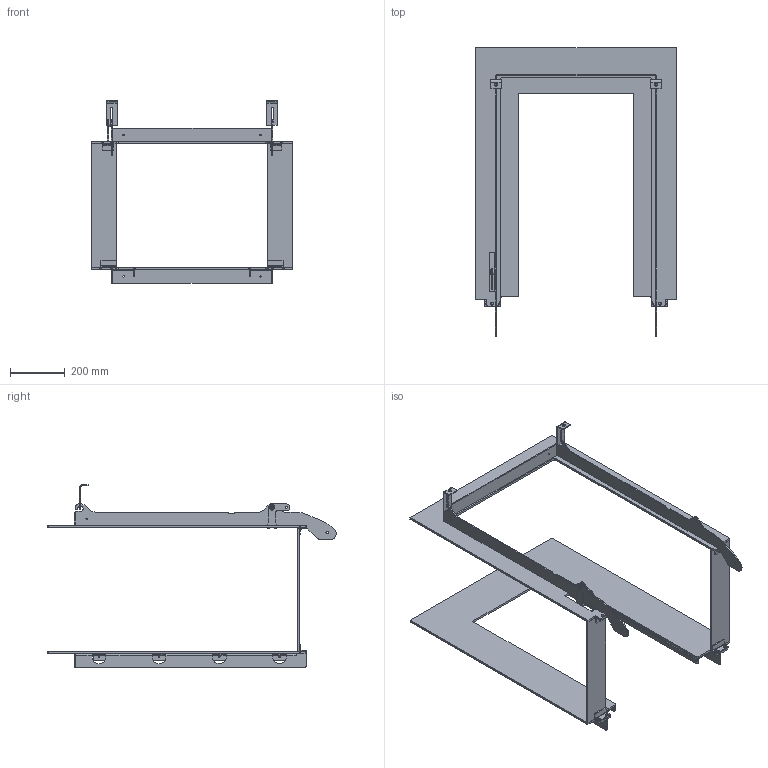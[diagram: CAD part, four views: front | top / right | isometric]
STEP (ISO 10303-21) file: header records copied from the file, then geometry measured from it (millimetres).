
FILE_DESCRIPTION(/* description */ ('','CAx-IF Rec.Pracs.---Representation and Presentation of Product Manufacturing Information (PMI)---3.8---2014-02-18'),/* implementation_level */ '2;1');
FILE_NAME(/* name */ 'C:\Users\ggu\Desktop\3D export\RIII_45x56x80_Einbaurahmen_geschraubt_Gen1_2017-00314.stp',/* time_stamp */ '2017-05-04T15:00:08+02:00',/* author */ ('GGU'),/* organization */ (''),/* preprocessor_version */ 'ST-DEVELOPER v16.1',/* originating_system */ 'Autodesk Inventor 2016',/* authorisation */ '');
FILE_SCHEMA (('AP242_MANAGED_MODEL_BASED_3D_ENGINEERING_MIM_LF { 1 0 10303 442 1 1 4 }'));
Length unit declared in the file: millimetre
Products named in the file (22): 2017-00313; 2017-00311; 2017-00072; 2010-03187; 2017-00312; 2016-03128; 2012-01218; 2016-03143; 2016-03127; 2017-00310; 2017-00316; 2017-00318; 2017-00317; 2016-03129; 2015-02925; 2015-02983; 2016-01603; 2015-02928; 2015-02927; 2016-03230; 2017-00315; 2017-00314
Assembly tree (27 placements, depth 4):
  2017-00314
    2017-00315
      2017-00312
        2017-00313
        2017-00311  x2
        2017-00072
        2010-03187  x2
      2016-03127
        2016-03128
        2012-01218
        2016-03143
      2017-00317
        2017-00310
        2017-00072
        2017-00316
        2017-00318
      2016-03129
        2016-03128
        2012-01218
        2016-03143
      2015-02925
      2015-02983
      2016-01603
      2015-02928
      2015-02927
      2016-03230
Bounding box: 735 x 1055.25 x 668 mm (x, y, z)
Volume: 6966209 mm3; surface area: 2299364 mm2
Topology: 22 solids, 22 shells, 626 faces, 1703 edges, 1103 vertices
Faces by surface type: plane 320, cylinder 272, bspline 32, cone 2
Full cylindrical faces by diameter (mm): 3.242 x2, 4.5 x3, 5.2 x14, 6.2 x1, 9 x4, 10 x5, 10.21 x1, 10.4 x1, 10.5 x5, 12 x2, 16 x1, 20 x1, 25 x2
Entity records: 17125 total; most frequent: CARTESIAN_POINT 3968, DIRECTION 2701, ORIENTED_EDGE 2622, EDGE_CURVE 1311, AXIS2_PLACEMENT_3D 941, VERTEX_POINT 864, LINE 819, VECTOR 819
